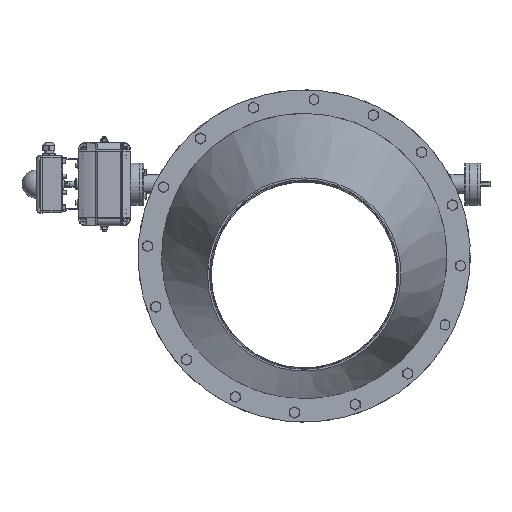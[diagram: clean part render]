
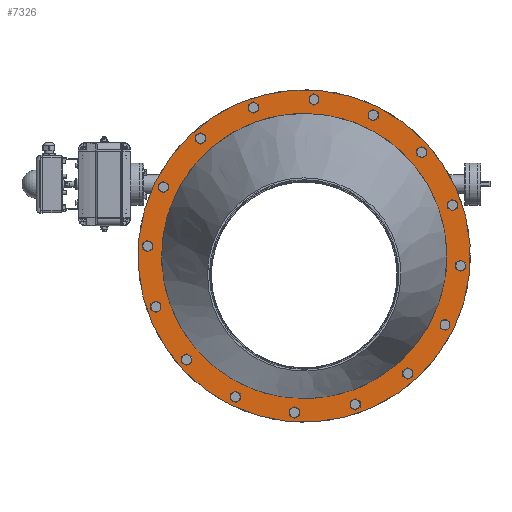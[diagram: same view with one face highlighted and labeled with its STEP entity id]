
A CAD part, top view. The second image highlights one B-rep face of the part: STEP entity #7326.
In plain terms, the highlighted planar face has unit normal (0, 0, 1) as drawn and (0, 0, -1) by its records, which use the part's own axes.
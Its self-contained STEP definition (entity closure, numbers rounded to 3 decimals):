
#6393=CARTESIAN_POINT('',(325.5,0.037,0.0));
#6394=VERTEX_POINT('',#6393);
#6395=CARTESIAN_POINT('',(332.5,0.037,0.0));
#6396=DIRECTION('',(0.0,0.0,1.0));
#6397=DIRECTION('',(1.0,0.0,0.0));
#6398=AXIS2_PLACEMENT_3D('',#6395,#6396,#6397);
#6399=CIRCLE('',#6398,7.);
#6400=EDGE_CURVE('',#6394,#6394,#6399,.T.);
#6442=CARTESIAN_POINT('',(300.176,127.276,0.0));
#6443=VERTEX_POINT('',#6442);
#6444=CARTESIAN_POINT('',(307.176,127.276,0.0));
#6445=DIRECTION('',(0.0,0.0,1.0));
#6446=DIRECTION('',(1.0,0.0,0.0));
#6447=AXIS2_PLACEMENT_3D('',#6444,#6445,#6446);
#6448=CIRCLE('',#6447,7.);
#6449=EDGE_CURVE('',#6443,#6443,#6448,.T.);
#6491=CARTESIAN_POINT('',(228.087,235.139,0.0));
#6492=VERTEX_POINT('',#6491);
#6493=CARTESIAN_POINT('',(235.087,235.139,0.0));
#6494=DIRECTION('',(0.0,0.0,1.0));
#6495=DIRECTION('',(1.0,0.0,0.0));
#6496=AXIS2_PLACEMENT_3D('',#6493,#6494,#6495);
#6497=CIRCLE('',#6496,7.);
#6498=EDGE_CURVE('',#6492,#6492,#6497,.T.);
#6540=CARTESIAN_POINT('',(120.208,307.204,0.0));
#6541=VERTEX_POINT('',#6540);
#6542=CARTESIAN_POINT('',(127.208,307.204,0.0));
#6543=DIRECTION('',(0.0,0.0,1.0));
#6544=DIRECTION('',(1.0,0.0,0.0));
#6545=AXIS2_PLACEMENT_3D('',#6542,#6543,#6544);
#6546=CIRCLE('',#6545,7.);
#6547=EDGE_CURVE('',#6541,#6541,#6546,.T.);
#6589=CARTESIAN_POINT('',(-6.963,-332.5,0.0));
#6590=VERTEX_POINT('',#6589);
#6591=CARTESIAN_POINT('',(0.037,-332.5,0.0));
#6592=DIRECTION('',(0.0,0.0,1.0));
#6593=DIRECTION('',(1.0,0.0,0.0));
#6594=AXIS2_PLACEMENT_3D('',#6591,#6592,#6593);
#6595=CIRCLE('',#6594,7.);
#6596=EDGE_CURVE('',#6590,#6590,#6595,.T.);
#6638=CARTESIAN_POINT('',(120.276,-307.176,0.0));
#6639=VERTEX_POINT('',#6638);
#6640=CARTESIAN_POINT('',(127.276,-307.176,0.0));
#6641=DIRECTION('',(0.0,0.0,1.0));
#6642=DIRECTION('',(1.0,0.0,0.0));
#6643=AXIS2_PLACEMENT_3D('',#6640,#6641,#6642);
#6644=CIRCLE('',#6643,7.);
#6645=EDGE_CURVE('',#6639,#6639,#6644,.T.);
#6687=CARTESIAN_POINT('',(228.139,-235.087,0.0));
#6688=VERTEX_POINT('',#6687);
#6689=CARTESIAN_POINT('',(235.139,-235.087,0.0));
#6690=DIRECTION('',(0.0,0.0,1.0));
#6691=DIRECTION('',(1.0,0.0,0.0));
#6692=AXIS2_PLACEMENT_3D('',#6689,#6690,#6691);
#6693=CIRCLE('',#6692,7.);
#6694=EDGE_CURVE('',#6688,#6688,#6693,.T.);
#6736=CARTESIAN_POINT('',(300.204,-127.208,0.0));
#6737=VERTEX_POINT('',#6736);
#6738=CARTESIAN_POINT('',(307.204,-127.208,0.0));
#6739=DIRECTION('',(0.0,0.0,1.0));
#6740=DIRECTION('',(1.0,0.0,0.0));
#6741=AXIS2_PLACEMENT_3D('',#6738,#6739,#6740);
#6742=CIRCLE('',#6741,7.);
#6743=EDGE_CURVE('',#6737,#6737,#6742,.T.);
#6785=CARTESIAN_POINT('',(-339.5,-0.037,0.0));
#6786=VERTEX_POINT('',#6785);
#6787=CARTESIAN_POINT('',(-332.5,-0.037,0.0));
#6788=DIRECTION('',(0.0,0.0,1.0));
#6789=DIRECTION('',(1.0,0.0,0.0));
#6790=AXIS2_PLACEMENT_3D('',#6787,#6788,#6789);
#6791=CIRCLE('',#6790,7.);
#6792=EDGE_CURVE('',#6786,#6786,#6791,.T.);
#6834=CARTESIAN_POINT('',(-314.176,-127.276,0.0));
#6835=VERTEX_POINT('',#6834);
#6836=CARTESIAN_POINT('',(-307.176,-127.276,0.0));
#6837=DIRECTION('',(0.0,0.0,1.0));
#6838=DIRECTION('',(1.0,0.0,0.0));
#6839=AXIS2_PLACEMENT_3D('',#6836,#6837,#6838);
#6840=CIRCLE('',#6839,7.);
#6841=EDGE_CURVE('',#6835,#6835,#6840,.T.);
#6883=CARTESIAN_POINT('',(-242.087,-235.139,0.0));
#6884=VERTEX_POINT('',#6883);
#6885=CARTESIAN_POINT('',(-235.087,-235.139,0.0));
#6886=DIRECTION('',(0.0,0.0,1.0));
#6887=DIRECTION('',(1.0,0.0,0.0));
#6888=AXIS2_PLACEMENT_3D('',#6885,#6886,#6887);
#6889=CIRCLE('',#6888,7.);
#6890=EDGE_CURVE('',#6884,#6884,#6889,.T.);
#6932=CARTESIAN_POINT('',(-134.208,-307.204,0.0));
#6933=VERTEX_POINT('',#6932);
#6934=CARTESIAN_POINT('',(-127.208,-307.204,0.0));
#6935=DIRECTION('',(0.0,0.0,1.0));
#6936=DIRECTION('',(1.0,0.0,0.0));
#6937=AXIS2_PLACEMENT_3D('',#6934,#6935,#6936);
#6938=CIRCLE('',#6937,7.);
#6939=EDGE_CURVE('',#6933,#6933,#6938,.T.);
#6981=CARTESIAN_POINT('',(-314.204,127.208,0.0));
#6982=VERTEX_POINT('',#6981);
#6983=CARTESIAN_POINT('',(-307.204,127.208,0.0));
#6984=DIRECTION('',(0.0,0.0,1.0));
#6985=DIRECTION('',(1.0,0.0,0.0));
#6986=AXIS2_PLACEMENT_3D('',#6983,#6984,#6985);
#6987=CIRCLE('',#6986,7.);
#6988=EDGE_CURVE('',#6982,#6982,#6987,.T.);
#7030=CARTESIAN_POINT('',(-242.139,235.087,0.0));
#7031=VERTEX_POINT('',#7030);
#7032=CARTESIAN_POINT('',(-235.139,235.087,0.0));
#7033=DIRECTION('',(0.0,0.0,1.0));
#7034=DIRECTION('',(1.0,0.0,0.0));
#7035=AXIS2_PLACEMENT_3D('',#7032,#7033,#7034);
#7036=CIRCLE('',#7035,7.);
#7037=EDGE_CURVE('',#7031,#7031,#7036,.T.);
#7079=CARTESIAN_POINT('',(-134.276,307.176,0.0));
#7080=VERTEX_POINT('',#7079);
#7081=CARTESIAN_POINT('',(-127.276,307.176,0.0));
#7082=DIRECTION('',(0.0,0.0,1.0));
#7083=DIRECTION('',(1.0,0.0,0.0));
#7084=AXIS2_PLACEMENT_3D('',#7081,#7082,#7083);
#7085=CIRCLE('',#7084,7.);
#7086=EDGE_CURVE('',#7080,#7080,#7085,.T.);
#7128=CARTESIAN_POINT('',(-7.037,332.5,0.0));
#7129=VERTEX_POINT('',#7128);
#7130=CARTESIAN_POINT('',(-0.037,332.5,0.0));
#7131=DIRECTION('',(0.0,0.0,1.0));
#7132=DIRECTION('',(1.0,0.0,0.0));
#7133=AXIS2_PLACEMENT_3D('',#7130,#7131,#7132);
#7134=CIRCLE('',#7133,7.);
#7135=EDGE_CURVE('',#7129,#7129,#7134,.T.);
#7167=CARTESIAN_POINT('',(302.5,0.,0.0));
#7168=VERTEX_POINT('',#7167);
#7169=CARTESIAN_POINT('',(0.0,0.0,0.0));
#7170=DIRECTION('',(0.0,0.0,1.0));
#7171=DIRECTION('',(-1.0,0.0,0.0));
#7172=AXIS2_PLACEMENT_3D('',#7169,#7170,#7171);
#7173=CIRCLE('',#7172,302.5);
#7174=EDGE_CURVE('',#7168,#7168,#7173,.T.);
#7195=CARTESIAN_POINT('',(352.5,0.,0.0));
#7196=VERTEX_POINT('',#7195);
#7197=CARTESIAN_POINT('',(0.0,0.0,0.0));
#7198=DIRECTION('',(0.0,0.0,-1.0));
#7199=DIRECTION('',(-1.0,0.0,0.0));
#7200=AXIS2_PLACEMENT_3D('',#7197,#7198,#7199);
#7201=CIRCLE('',#7200,352.5);
#7202=EDGE_CURVE('',#7196,#7196,#7201,.T.);
#7267=CARTESIAN_POINT('',(0.0,0.0,0.0));
#7268=DIRECTION('',(0.0,0.0,-1.0));
#7269=DIRECTION('',(-1.0,0.0,0.0));
#7270=AXIS2_PLACEMENT_3D('',#7267,#7268,#7269);
#7271=PLANE('',#7270);
#7272=ORIENTED_EDGE('',*,*,#7202,.T.);
#7273=EDGE_LOOP('',(#7272));
#7274=FACE_OUTER_BOUND('',#7273,.T.);
#7275=ORIENTED_EDGE('',*,*,#6400,.T.);
#7276=EDGE_LOOP('',(#7275));
#7277=FACE_BOUND('',#7276,.T.);
#7278=ORIENTED_EDGE('',*,*,#6449,.T.);
#7279=EDGE_LOOP('',(#7278));
#7280=FACE_BOUND('',#7279,.T.);
#7281=ORIENTED_EDGE('',*,*,#6498,.T.);
#7282=EDGE_LOOP('',(#7281));
#7283=FACE_BOUND('',#7282,.T.);
#7284=ORIENTED_EDGE('',*,*,#6547,.T.);
#7285=EDGE_LOOP('',(#7284));
#7286=FACE_BOUND('',#7285,.T.);
#7287=ORIENTED_EDGE('',*,*,#6596,.T.);
#7288=EDGE_LOOP('',(#7287));
#7289=FACE_BOUND('',#7288,.T.);
#7290=ORIENTED_EDGE('',*,*,#6645,.T.);
#7291=EDGE_LOOP('',(#7290));
#7292=FACE_BOUND('',#7291,.T.);
#7293=ORIENTED_EDGE('',*,*,#6694,.T.);
#7294=EDGE_LOOP('',(#7293));
#7295=FACE_BOUND('',#7294,.T.);
#7296=ORIENTED_EDGE('',*,*,#6743,.T.);
#7297=EDGE_LOOP('',(#7296));
#7298=FACE_BOUND('',#7297,.T.);
#7299=ORIENTED_EDGE('',*,*,#6792,.T.);
#7300=EDGE_LOOP('',(#7299));
#7301=FACE_BOUND('',#7300,.T.);
#7302=ORIENTED_EDGE('',*,*,#6841,.T.);
#7303=EDGE_LOOP('',(#7302));
#7304=FACE_BOUND('',#7303,.T.);
#7305=ORIENTED_EDGE('',*,*,#6890,.T.);
#7306=EDGE_LOOP('',(#7305));
#7307=FACE_BOUND('',#7306,.T.);
#7308=ORIENTED_EDGE('',*,*,#6939,.T.);
#7309=EDGE_LOOP('',(#7308));
#7310=FACE_BOUND('',#7309,.T.);
#7311=ORIENTED_EDGE('',*,*,#6988,.T.);
#7312=EDGE_LOOP('',(#7311));
#7313=FACE_BOUND('',#7312,.T.);
#7314=ORIENTED_EDGE('',*,*,#7037,.T.);
#7315=EDGE_LOOP('',(#7314));
#7316=FACE_BOUND('',#7315,.T.);
#7317=ORIENTED_EDGE('',*,*,#7086,.T.);
#7318=EDGE_LOOP('',(#7317));
#7319=FACE_BOUND('',#7318,.T.);
#7320=ORIENTED_EDGE('',*,*,#7135,.T.);
#7321=EDGE_LOOP('',(#7320));
#7322=FACE_BOUND('',#7321,.T.);
#7323=ORIENTED_EDGE('',*,*,#7174,.T.);
#7324=EDGE_LOOP('',(#7323));
#7325=FACE_BOUND('',#7324,.T.);
#7326=ADVANCED_FACE('',(#7274,#7277,#7280,#7283,#7286,#7289,#7292,#7295,#7298,#7301,#7304,#7307,#7310,#7313,#7316,#7319,#7322,#7325),#7271,.T.);
